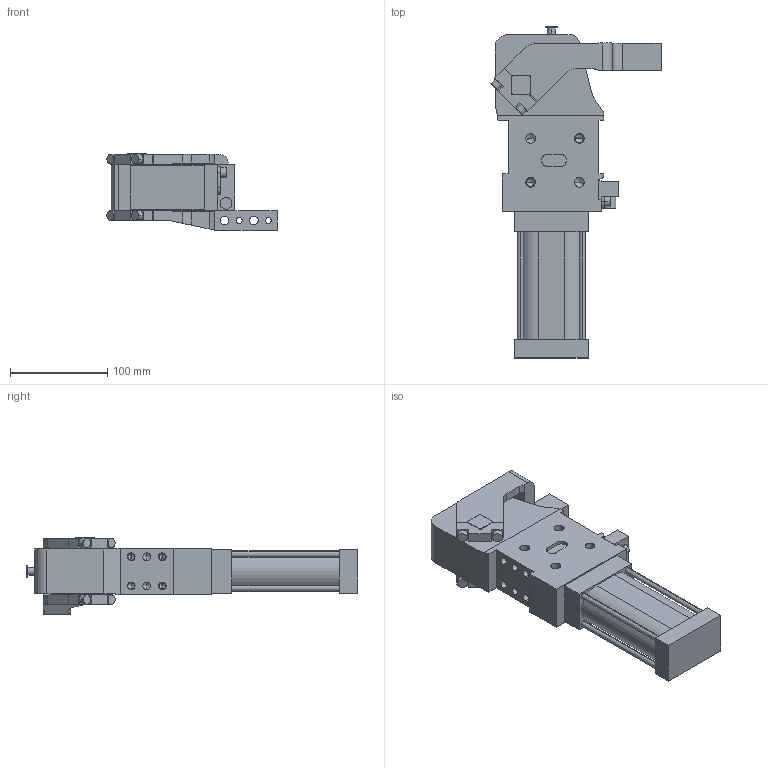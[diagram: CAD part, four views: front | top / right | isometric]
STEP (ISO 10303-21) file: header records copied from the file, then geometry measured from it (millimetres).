
FILE_DESCRIPTION (( 'STEP AP214' ), '1' );
FILE_NAME ('cpl50v1dsi1g_16.STEP', '2023-01-26T08:44:59', ( '' ), ( '' ), 'SwSTEP 2.0', 'SolidWorks 2022', '' );
FILE_SCHEMA (( 'AUTOMOTIVE_DESIGN' ));
Length unit declared in the file: millimetre
Products named in the file (4): blocchetto_VEP_0; leva_sx_offset_15_cpl50; meccanica_cpl_50; cpl50v1dsi1g_16
Assembly tree (3 placements, depth 2):
  cpl50v1dsi1g_16
    meccanica_cpl_50
    blocchetto_VEP_0
    leva_sx_offset_15_cpl50
Bounding box: 174.97 x 341 x 78.5 mm (x, y, z)
Volume: 1387864 mm3; surface area: 163615.7 mm2
Topology: 3 solids, 3 shells, 399 faces, 1029 edges, 639 vertices
Faces by surface type: plane 193, cylinder 156, cone 50
Entity records: 13413 total; most frequent: CARTESIAN_POINT 2115, DIRECTION 2109, ORIENTED_EDGE 1966, EDGE_CURVE 983, AXIS2_PLACEMENT_3D 731, VECTOR 647, LINE 647, VERTEX_POINT 639
